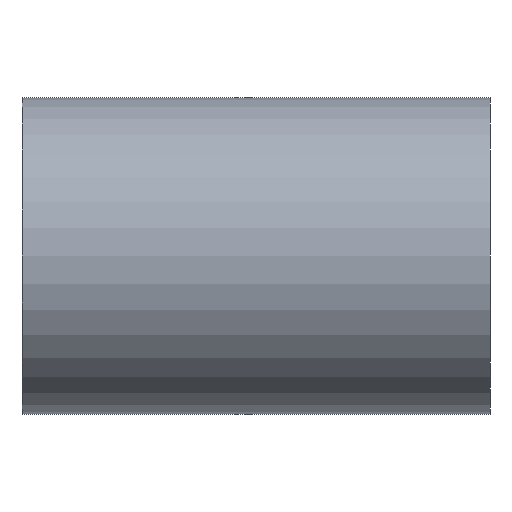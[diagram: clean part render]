
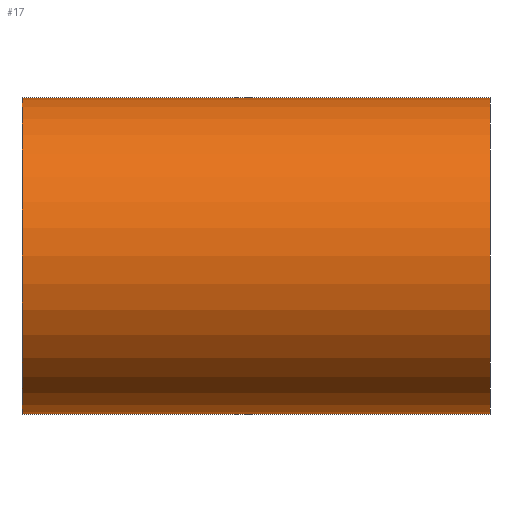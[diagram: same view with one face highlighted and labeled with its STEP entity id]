
A CAD part, front view. The second image highlights one B-rep face of the part: STEP entity #17.
In plain terms, the highlighted cylindrical face has radius 1.49 mm (diameter 2.98 mm), a full revolution.
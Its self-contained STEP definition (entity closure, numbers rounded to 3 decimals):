
#17 = ADVANCED_FACE('',(#18),#31,.T.);
#18 = FACE_BOUND('',#19,.F.);
#19 = EDGE_LOOP('',(#20,#58,#81,#112));
#20 = ORIENTED_EDGE('',*,*,#21,.F.);
#21 = EDGE_CURVE('',#22,#22,#24,.T.);
#22 = VERTEX_POINT('',#23);
#23 = CARTESIAN_POINT('',(3.55,28.,20.49));
#24 = SURFACE_CURVE('',#25,(#30,#42),.PCURVE_S1.);
#25 = CIRCLE('',#26,1.49);
#26 = AXIS2_PLACEMENT_3D('',#27,#28,#29);
#27 = CARTESIAN_POINT('',(3.55,28.,19.));
#28 = DIRECTION('',(1.,-0.,0.));
#29 = DIRECTION('',(-0.,-0.,1.));
#30 = PCURVE('',#31,#36);
#31 = CYLINDRICAL_SURFACE('',#32,1.49);
#32 = AXIS2_PLACEMENT_3D('',#33,#34,#35);
#33 = CARTESIAN_POINT('',(7.95,28.,19.));
#34 = DIRECTION('',(-1.,-0.,-0.));
#35 = DIRECTION('',(-0.,-0.,1.));
#36 = DEFINITIONAL_REPRESENTATION('',(#37),#41);
#37 = LINE('',#38,#39);
#38 = CARTESIAN_POINT('',(-0.,4.4));
#39 = VECTOR('',#40,1.);
#40 = DIRECTION('',(-1.,0.));
#41 = ( GEOMETRIC_REPRESENTATION_CONTEXT(2) 
PARAMETRIC_REPRESENTATION_CONTEXT() REPRESENTATION_CONTEXT('2D SPACE',''
  ) );
#42 = PCURVE('',#43,#48);
#43 = PLANE('',#44);
#44 = AXIS2_PLACEMENT_3D('',#45,#46,#47);
#45 = CARTESIAN_POINT('',(3.55,28.,19.));
#46 = DIRECTION('',(-1.,-0.,-0.));
#47 = DIRECTION('',(0.,0.,-1.));
#48 = DEFINITIONAL_REPRESENTATION('',(#49),#57);
#49 = ( BOUNDED_CURVE() B_SPLINE_CURVE(2,(#50,#51,#52,#53,#54,#55,#56),
.UNSPECIFIED.,.T.,.F.) B_SPLINE_CURVE_WITH_KNOTS((1,2,2,2,2,1),(
    -2.094,0.,2.094,4.189,6.283,
8.378),.UNSPECIFIED.) CURVE() GEOMETRIC_REPRESENTATION_ITEM() 
RATIONAL_B_SPLINE_CURVE((1.,0.5,1.,0.5,1.,0.5,1.)) REPRESENTATION_ITEM(
  '') );
#50 = CARTESIAN_POINT('',(-1.49,0.));
#51 = CARTESIAN_POINT('',(-1.49,2.581));
#52 = CARTESIAN_POINT('',(0.745,1.29));
#53 = CARTESIAN_POINT('',(2.98,0.));
#54 = CARTESIAN_POINT('',(0.745,-1.29));
#55 = CARTESIAN_POINT('',(-1.49,-2.581));
#56 = CARTESIAN_POINT('',(-1.49,0.));
#57 = ( GEOMETRIC_REPRESENTATION_CONTEXT(2) 
PARAMETRIC_REPRESENTATION_CONTEXT() REPRESENTATION_CONTEXT('2D SPACE',''
  ) );
#58 = ORIENTED_EDGE('',*,*,#59,.F.);
#59 = EDGE_CURVE('',#60,#22,#62,.T.);
#60 = VERTEX_POINT('',#61);
#61 = CARTESIAN_POINT('',(7.95,28.,20.49));
#62 = SEAM_CURVE('',#63,(#67,#74),.PCURVE_S1.);
#63 = LINE('',#64,#65);
#64 = CARTESIAN_POINT('',(7.95,28.,20.49));
#65 = VECTOR('',#66,1.);
#66 = DIRECTION('',(-1.,-0.,-0.));
#67 = PCURVE('',#31,#68);
#68 = DEFINITIONAL_REPRESENTATION('',(#69),#73);
#69 = LINE('',#70,#71);
#70 = CARTESIAN_POINT('',(-6.283,-0.));
#71 = VECTOR('',#72,1.);
#72 = DIRECTION('',(-0.,1.));
#73 = ( GEOMETRIC_REPRESENTATION_CONTEXT(2) 
PARAMETRIC_REPRESENTATION_CONTEXT() REPRESENTATION_CONTEXT('2D SPACE',''
  ) );
#74 = PCURVE('',#31,#75);
#75 = DEFINITIONAL_REPRESENTATION('',(#76),#80);
#76 = LINE('',#77,#78);
#77 = CARTESIAN_POINT('',(-0.,-0.));
#78 = VECTOR('',#79,1.);
#79 = DIRECTION('',(-0.,1.));
#80 = ( GEOMETRIC_REPRESENTATION_CONTEXT(2) 
PARAMETRIC_REPRESENTATION_CONTEXT() REPRESENTATION_CONTEXT('2D SPACE',''
  ) );
#81 = ORIENTED_EDGE('',*,*,#82,.T.);
#82 = EDGE_CURVE('',#60,#60,#83,.T.);
#83 = SURFACE_CURVE('',#84,(#89,#96),.PCURVE_S1.);
#84 = CIRCLE('',#85,1.49);
#85 = AXIS2_PLACEMENT_3D('',#86,#87,#88);
#86 = CARTESIAN_POINT('',(7.95,28.,19.));
#87 = DIRECTION('',(1.,-0.,0.));
#88 = DIRECTION('',(-0.,-0.,1.));
#89 = PCURVE('',#31,#90);
#90 = DEFINITIONAL_REPRESENTATION('',(#91),#95);
#91 = LINE('',#92,#93);
#92 = CARTESIAN_POINT('',(-0.,0.));
#93 = VECTOR('',#94,1.);
#94 = DIRECTION('',(-1.,0.));
#95 = ( GEOMETRIC_REPRESENTATION_CONTEXT(2) 
PARAMETRIC_REPRESENTATION_CONTEXT() REPRESENTATION_CONTEXT('2D SPACE',''
  ) );
#96 = PCURVE('',#97,#102);
#97 = PLANE('',#98);
#98 = AXIS2_PLACEMENT_3D('',#99,#100,#101);
#99 = CARTESIAN_POINT('',(7.95,28.,19.));
#100 = DIRECTION('',(-1.,-0.,-0.));
#101 = DIRECTION('',(0.,0.,-1.));
#102 = DEFINITIONAL_REPRESENTATION('',(#103),#111);
#103 = ( BOUNDED_CURVE() B_SPLINE_CURVE(2,(#104,#105,#106,#107,#108,#109
,#110),.UNSPECIFIED.,.T.,.F.) B_SPLINE_CURVE_WITH_KNOTS((1,2,2,2,2,1),(
    -2.094,0.,2.094,4.189,6.283,
8.378),.UNSPECIFIED.) CURVE() GEOMETRIC_REPRESENTATION_ITEM() 
RATIONAL_B_SPLINE_CURVE((1.,0.5,1.,0.5,1.,0.5,1.)) REPRESENTATION_ITEM(
  '') );
#104 = CARTESIAN_POINT('',(-1.49,0.));
#105 = CARTESIAN_POINT('',(-1.49,2.581));
#106 = CARTESIAN_POINT('',(0.745,1.29));
#107 = CARTESIAN_POINT('',(2.98,0.));
#108 = CARTESIAN_POINT('',(0.745,-1.29));
#109 = CARTESIAN_POINT('',(-1.49,-2.581));
#110 = CARTESIAN_POINT('',(-1.49,0.));
#111 = ( GEOMETRIC_REPRESENTATION_CONTEXT(2) 
PARAMETRIC_REPRESENTATION_CONTEXT() REPRESENTATION_CONTEXT('2D SPACE',''
  ) );
#112 = ORIENTED_EDGE('',*,*,#59,.T.);
